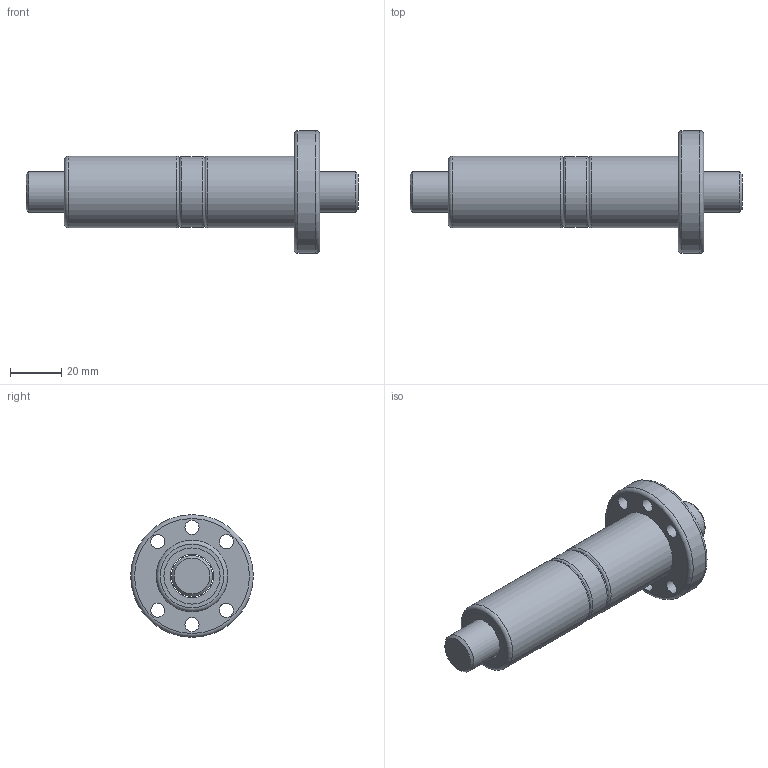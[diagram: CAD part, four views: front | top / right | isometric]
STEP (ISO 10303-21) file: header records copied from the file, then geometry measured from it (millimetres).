
FILE_DESCRIPTION(/* description */ (''),/* implementation_level */ '2;1');
FILE_NAME(/* name */ 'DFU1605',/* time_stamp */ '2007-10-26T10:52:14+08:00',/* author */ (''),/* organization */ (''),/* preprocessor_version */ 'ST-DEVELOPER v9',/* originating_system */ 'EDS PLM SOLUTIONS - UNIGRAPHICS NX 1.0',/* authorisation */ '');
FILE_SCHEMA (('CONFIG_CONTROL_DESIGN'));
Length unit declared in the file: millimetre
Products named in the file (1): FANNDA0400ck
Bounding box: 130 x 48 x 48 mm (x, y, z)
Volume: 75090.4 mm3; surface area: 28943.3 mm2
Topology: 6 solids, 6 shells, 44 faces, 83 edges, 54 vertices
Faces by surface type: cylinder 20, plane 15, torus 7, cone 2
Full cylindrical faces by diameter (mm): 5.5 x6, 16 x1, 17 x5, 22 x1, 22.005 x3, 27.7 x1, 28 x2, 48 x1
Entity records: 1054 total; most frequent: DIRECTION 188, CARTESIAN_POINT 143, EDGE_LOOP 98, ORIENTED_EDGE 98, AXIS2_PLACEMENT_3D 94, FACE_BOUND 81, VERTEX_POINT 49, EDGE_CURVE 49
